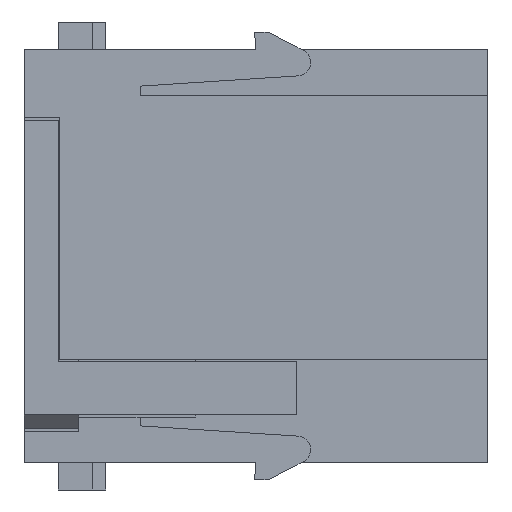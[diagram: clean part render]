
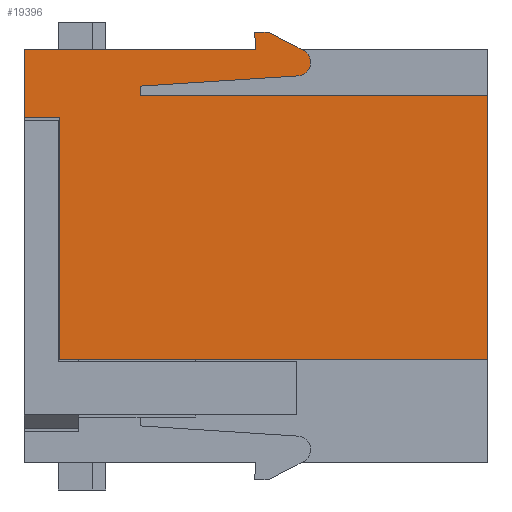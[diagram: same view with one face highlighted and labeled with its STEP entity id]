
A CAD part, left-side view. The second image highlights one B-rep face of the part: STEP entity #19396.
In plain terms, the highlighted planar face has unit normal (-1, 0, 0).
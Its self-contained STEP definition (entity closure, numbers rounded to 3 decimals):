
#196 = VERTEX_POINT ( 'NONE', #16476 ) ;
#456 = CARTESIAN_POINT ( 'NONE',  ( -7.3, -2.6, -7.6 ) ) ;
#801 = ORIENTED_EDGE ( 'NONE', *, *, #13906, .T. ) ;
#891 = ORIENTED_EDGE ( 'NONE', *, *, #19366, .T. ) ;
#1003 = AXIS2_PLACEMENT_3D ( 'NONE', #3719, #7109, #13582 ) ;
#1132 = DIRECTION ( 'NONE',  ( 0., 0., -1. ) ) ;
#1190 = LINE ( 'NONE', #6041, #7113 ) ;
#1194 = DIRECTION ( 'NONE',  ( 0., -0.998, 0.065 ) ) ;
#1422 = VECTOR ( 'NONE', #1132, 1000. ) ;
#1750 = CARTESIAN_POINT ( 'NONE',  ( -7.3, -8.5, 12.45 ) ) ;
#1763 = VECTOR ( 'NONE', #10577, 1000. ) ;
#2037 = ORIENTED_EDGE ( 'NONE', *, *, #6440, .T. ) ;
#2294 = VERTEX_POINT ( 'NONE', #18560 ) ;
#2299 = CARTESIAN_POINT ( 'NONE',  ( -7.3, -17.891, 16.4 ) ) ;
#2467 = CARTESIAN_POINT ( 'NONE',  ( -7.3, -20.455, 15.088 ) ) ;
#2571 = VERTEX_POINT ( 'NONE', #456 ) ;
#2684 = ORIENTED_EDGE ( 'NONE', *, *, #4960, .T. ) ;
#3040 = DIRECTION ( 'NONE',  ( 0., -1., 0. ) ) ;
#3682 = VERTEX_POINT ( 'NONE', #20659 ) ;
#3719 = CARTESIAN_POINT ( 'NONE',  ( -7.3, 0., 15.15 ) ) ;
#3858 = DIRECTION ( 'NONE',  ( 0., -1., 0. ) ) ;
#3878 = CARTESIAN_POINT ( 'NONE',  ( -7.3, 0., 11.75 ) ) ;
#4031 = CARTESIAN_POINT ( 'NONE',  ( -7.3, -8.5, 11.8 ) ) ;
#4297 = ORIENTED_EDGE ( 'NONE', *, *, #13998, .T. ) ;
#4329 = CARTESIAN_POINT ( 'NONE',  ( -7.3, -17., 15.15 ) ) ;
#4400 = ORIENTED_EDGE ( 'NONE', *, *, #5954, .T. ) ;
#4631 = VERTEX_POINT ( 'NONE', #4329 ) ;
#4782 = LINE ( 'NONE', #3878, #7860 ) ;
#4960 = EDGE_CURVE ( 'NONE', #19533, #4631, #9795, .T. ) ;
#5265 = CARTESIAN_POINT ( 'NONE',  ( -7.3, 0., 15.15 ) ) ;
#5451 = CARTESIAN_POINT ( 'NONE',  ( -7.3, 0., 10.15 ) ) ;
#5874 = EDGE_CURVE ( 'NONE', #4631, #6595, #12586, .T. ) ;
#5930 = CARTESIAN_POINT ( 'NONE',  ( -7.3, -8.5, 12.45 ) ) ;
#5954 = EDGE_CURVE ( 'NONE', #20640, #13931, #14117, .T. ) ;
#6041 = CARTESIAN_POINT ( 'NONE',  ( -7.3, 0., -7.6 ) ) ;
#6440 = EDGE_CURVE ( 'NONE', #6595, #2294, #8695, .T. ) ;
#6469 = DIRECTION ( 'NONE',  ( -1., 0., 0. ) ) ;
#6543 = DIRECTION ( 'NONE',  ( 0., 0., 1. ) ) ;
#6595 = VERTEX_POINT ( 'NONE', #21198 ) ;
#6749 = ORIENTED_EDGE ( 'NONE', *, *, #14298, .T. ) ;
#6803 = LINE ( 'NONE', #7390, #1422 ) ;
#7109 = DIRECTION ( 'NONE',  ( -1., 0., 0. ) ) ;
#7113 = VECTOR ( 'NONE', #3040, 1000. ) ;
#7249 = CARTESIAN_POINT ( 'NONE',  ( -7.3, -16.891, 16.4 ) ) ;
#7269 = DIRECTION ( 'NONE',  ( 0., 0.89, 0.455 ) ) ;
#7390 = CARTESIAN_POINT ( 'NONE',  ( -7.3, -34., 0. ) ) ;
#7600 = VERTEX_POINT ( 'NONE', #12653 ) ;
#7685 = LINE ( 'NONE', #5930, #17995 ) ;
#7860 = VECTOR ( 'NONE', #20235, 1000. ) ;
#7952 = EDGE_CURVE ( 'NONE', #2294, #196, #15871, .T. ) ;
#8695 = LINE ( 'NONE', #18378, #16430 ) ;
#8892 = ORIENTED_EDGE ( 'NONE', *, *, #9296, .T. ) ;
#8952 = VERTEX_POINT ( 'NONE', #10011 ) ;
#9078 = ORIENTED_EDGE ( 'NONE', *, *, #7952, .T. ) ;
#9242 = DIRECTION ( 'NONE',  ( 0., 0., -1. ) ) ;
#9296 = EDGE_CURVE ( 'NONE', #9621, #19533, #13008, .T. ) ;
#9621 = VERTEX_POINT ( 'NONE', #2299 ) ;
#9795 = LINE ( 'NONE', #19883, #20832 ) ;
#9918 = FACE_OUTER_BOUND ( 'NONE', #19172, .T. ) ;
#10011 = CARTESIAN_POINT ( 'NONE',  ( -7.3, -34., -7.6 ) ) ;
#10271 = DIRECTION ( 'NONE',  ( 0., -0.087, -0.996 ) ) ;
#10288 = DIRECTION ( 'NONE',  ( 0., 1., 0. ) ) ;
#10410 = ORIENTED_EDGE ( 'NONE', *, *, #17499, .F. ) ;
#10475 = PLANE ( 'NONE',  #1003 ) ;
#10577 = DIRECTION ( 'NONE',  ( 0., 0., 1. ) ) ;
#10621 = EDGE_CURVE ( 'NONE', #13931, #7600, #7685, .T. ) ;
#11811 = EDGE_CURVE ( 'NONE', #196, #2571, #18455, .T. ) ;
#12586 = LINE ( 'NONE', #5265, #17734 ) ;
#12653 = CARTESIAN_POINT ( 'NONE',  ( -7.3, -20.065, 13.2 ) ) ;
#12768 = CIRCLE ( 'NONE', #19327, 1. ) ;
#13008 = LINE ( 'NONE', #15023, #14255 ) ;
#13582 = DIRECTION ( 'NONE',  ( 0., 0., 1. ) ) ;
#13724 = CARTESIAN_POINT ( 'NONE',  ( -7.3, -34., 11.75 ) ) ;
#13862 = VECTOR ( 'NONE', #7269, 1000. ) ;
#13906 = EDGE_CURVE ( 'NONE', #2571, #8952, #1190, .T. ) ;
#13931 = VERTEX_POINT ( 'NONE', #1750 ) ;
#13998 = EDGE_CURVE ( 'NONE', #7600, #3682, #12768, .T. ) ;
#14117 = LINE ( 'NONE', #4031, #1763 ) ;
#14255 = VECTOR ( 'NONE', #16266, 1000. ) ;
#14298 = EDGE_CURVE ( 'NONE', #3682, #9621, #14619, .T. ) ;
#14619 = LINE ( 'NONE', #2467, #13862 ) ;
#14855 = VECTOR ( 'NONE', #9242, 1000. ) ;
#15023 = CARTESIAN_POINT ( 'NONE',  ( -7.3, -17.891, 16.4 ) ) ;
#15871 = LINE ( 'NONE', #5451, #21241 ) ;
#16266 = DIRECTION ( 'NONE',  ( 0., 1., 0. ) ) ;
#16340 = CARTESIAN_POINT ( 'NONE',  ( -7.3, -20., 14.198 ) ) ;
#16430 = VECTOR ( 'NONE', #16824, 1000. ) ;
#16476 = CARTESIAN_POINT ( 'NONE',  ( -7.3, -2.6, 10.15 ) ) ;
#16824 = DIRECTION ( 'NONE',  ( 0., 0., -1. ) ) ;
#17019 = ORIENTED_EDGE ( 'NONE', *, *, #10621, .T. ) ;
#17249 = CARTESIAN_POINT ( 'NONE',  ( -7.3, -2.6, 15.15 ) ) ;
#17499 = EDGE_CURVE ( 'NONE', #19033, #8952, #6803, .T. ) ;
#17734 = VECTOR ( 'NONE', #10288, 1000. ) ;
#17956 = ORIENTED_EDGE ( 'NONE', *, *, #5874, .T. ) ;
#17995 = VECTOR ( 'NONE', #1194, 1000. ) ;
#18127 = ORIENTED_EDGE ( 'NONE', *, *, #11811, .T. ) ;
#18254 = CARTESIAN_POINT ( 'NONE',  ( -7.3, -8.5, 11.75 ) ) ;
#18378 = CARTESIAN_POINT ( 'NONE',  ( -7.3, 0., 15.15 ) ) ;
#18455 = LINE ( 'NONE', #17249, #14855 ) ;
#18560 = CARTESIAN_POINT ( 'NONE',  ( -7.3, 0., 10.15 ) ) ;
#19033 = VERTEX_POINT ( 'NONE', #13724 ) ;
#19172 = EDGE_LOOP ( 'NONE', ( #2684, #17956, #2037, #9078, #18127, #801, #10410, #891, #4400, #17019, #4297, #6749, #8892 ) ) ;
#19327 = AXIS2_PLACEMENT_3D ( 'NONE', #16340, #6469, #6543 ) ;
#19366 = EDGE_CURVE ( 'NONE', #19033, #20640, #4782, .T. ) ;
#19396 = ADVANCED_FACE ( 'NONE', ( #9918 ), #10475, .T. ) ;
#19533 = VERTEX_POINT ( 'NONE', #7249 ) ;
#19883 = CARTESIAN_POINT ( 'NONE',  ( -7.3, -16.891, 16.4 ) ) ;
#20235 = DIRECTION ( 'NONE',  ( 0., 1., 0. ) ) ;
#20640 = VERTEX_POINT ( 'NONE', #18254 ) ;
#20659 = CARTESIAN_POINT ( 'NONE',  ( -7.3, -20.455, 15.088 ) ) ;
#20832 = VECTOR ( 'NONE', #10271, 1000. ) ;
#21198 = CARTESIAN_POINT ( 'NONE',  ( -7.3, 0., 15.15 ) ) ;
#21241 = VECTOR ( 'NONE', #3858, 1000. ) ;
